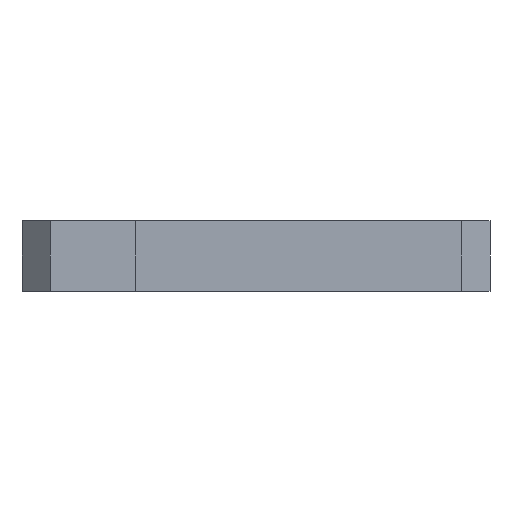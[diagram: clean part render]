
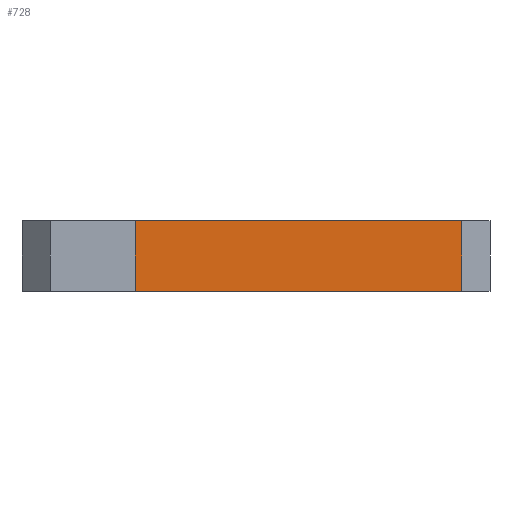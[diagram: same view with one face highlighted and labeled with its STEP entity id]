
A CAD part, left-side view. The second image highlights one B-rep face of the part: STEP entity #728.
In plain terms, the highlighted planar face has unit normal (-1, 0, 0).
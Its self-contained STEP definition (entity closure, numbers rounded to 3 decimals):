
#44 = LINE ( 'NONE', #581, #47 ) ;
#47 = VECTOR ( 'NONE', #583, 1000. ) ;
#50 = LINE ( 'NONE', #601, #55 ) ;
#55 = VECTOR ( 'NONE', #603, 1000. ) ;
#70 = VECTOR ( 'NONE', #662, 1000. ) ;
#71 = LINE ( 'NONE', #566, #70 ) ;
#146 = CARTESIAN_POINT ( 'NONE',  ( -11.5, 44.284, 5. ) ) ;
#155 = DIRECTION ( 'NONE',  ( 0., 0., -1. ) ) ;
#184 = DIRECTION ( 'NONE',  ( 0., 0., -1. ) ) ;
#190 = CARTESIAN_POINT ( 'NONE',  ( -11.5, 44.284, 0. ) ) ;
#206 = DIRECTION ( 'NONE',  ( 1., 0., 0. ) ) ;
#229 = CARTESIAN_POINT ( 'NONE',  ( -11.5, 16.284, 5. ) ) ;
#254 = PLANE ( 'NONE',  #381 ) ;
#262 = ORIENTED_EDGE ( 'NONE', *, *, #500, .T. ) ;
#266 = ORIENTED_EDGE ( 'NONE', *, *, #296, .F. ) ;
#296 = EDGE_CURVE ( 'NONE', #817, #441, #44, .T. ) ;
#363 = EDGE_CURVE ( 'NONE', #552, #441, #50, .T. ) ;
#381 = AXIS2_PLACEMENT_3D ( 'NONE', #229, #206, #184 ) ;
#441 = VERTEX_POINT ( 'NONE', #632 ) ;
#500 = EDGE_CURVE ( 'NONE', #548, #552, #71, .T. ) ;
#548 = VERTEX_POINT ( 'NONE', #615 ) ;
#552 = VERTEX_POINT ( 'NONE', #683 ) ;
#566 = CARTESIAN_POINT ( 'NONE',  ( -11.5, 16.284, 0. ) ) ;
#581 = CARTESIAN_POINT ( 'NONE',  ( -11.5, 16.284, 5. ) ) ;
#583 = DIRECTION ( 'NONE',  ( 0., -1., 0. ) ) ;
#601 = CARTESIAN_POINT ( 'NONE',  ( -11.5, 21.284, 5. ) ) ;
#603 = DIRECTION ( 'NONE',  ( 0., 0., 1. ) ) ;
#615 = CARTESIAN_POINT ( 'NONE',  ( -11.5, 44.284, 0. ) ) ;
#632 = CARTESIAN_POINT ( 'NONE',  ( -11.5, 21.284, 5. ) ) ;
#662 = DIRECTION ( 'NONE',  ( 0., -1., 0. ) ) ;
#683 = CARTESIAN_POINT ( 'NONE',  ( -11.5, 21.284, 0. ) ) ;
#693 = ORIENTED_EDGE ( 'NONE', *, *, #363, .T. ) ;
#706 = EDGE_LOOP ( 'NONE', ( #262, #693, #266, #864 ) ) ;
#728 = ADVANCED_FACE ( 'NONE', ( #763 ), #254, .F. ) ;
#731 = EDGE_CURVE ( 'NONE', #817, #548, #760, .T. ) ;
#760 = LINE ( 'NONE', #190, #772 ) ;
#763 = FACE_OUTER_BOUND ( 'NONE', #706, .T. ) ;
#772 = VECTOR ( 'NONE', #155, 1000. ) ;
#817 = VERTEX_POINT ( 'NONE', #146 ) ;
#864 = ORIENTED_EDGE ( 'NONE', *, *, #731, .T. ) ;
